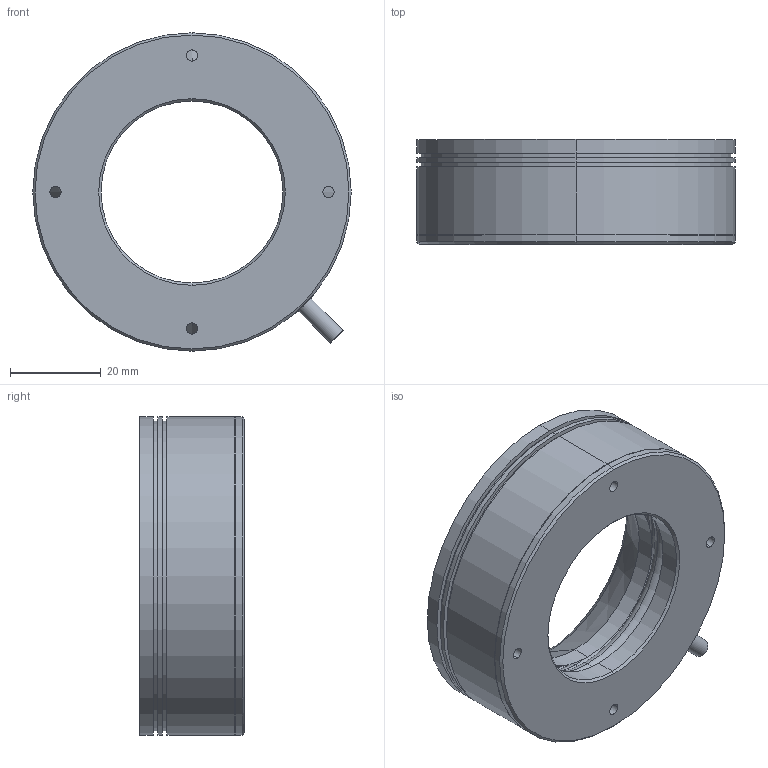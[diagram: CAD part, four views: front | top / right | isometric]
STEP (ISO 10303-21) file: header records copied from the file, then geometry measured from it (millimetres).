
FILE_DESCRIPTION (( 'STEP AP203' ), '1' );
FILE_NAME ('RI7060-W.STEP', '2021-10-11T08:30:22', ( 'Windows 蚚誧' ), ( 'Microsoft' ), 'SwSTEP 2.0', 'SolidWorks 2016', '' );
FILE_SCHEMA (( 'CONFIG_CONTROL_DESIGN' ));
Length unit declared in the file: millimetre
Products named in the file (1): RI7060-W
Bounding box: 70 x 23 x 70 mm (x, y, z)
Volume: 37558.1 mm3; surface area: 35454.2 mm2
Topology: 3 solids, 3 shells, 99 faces, 218 edges, 128 vertices
Faces by surface type: cone 36, cylinder 34, torus 16, plane 13
Entity records: 2995 total; most frequent: CARTESIAN_POINT 644, DIRECTION 534, ORIENTED_EDGE 436, AXIS2_PLACEMENT_3D 232, EDGE_CURVE 218, CIRCLE 132, VERTEX_POINT 128, EDGE_LOOP 116
